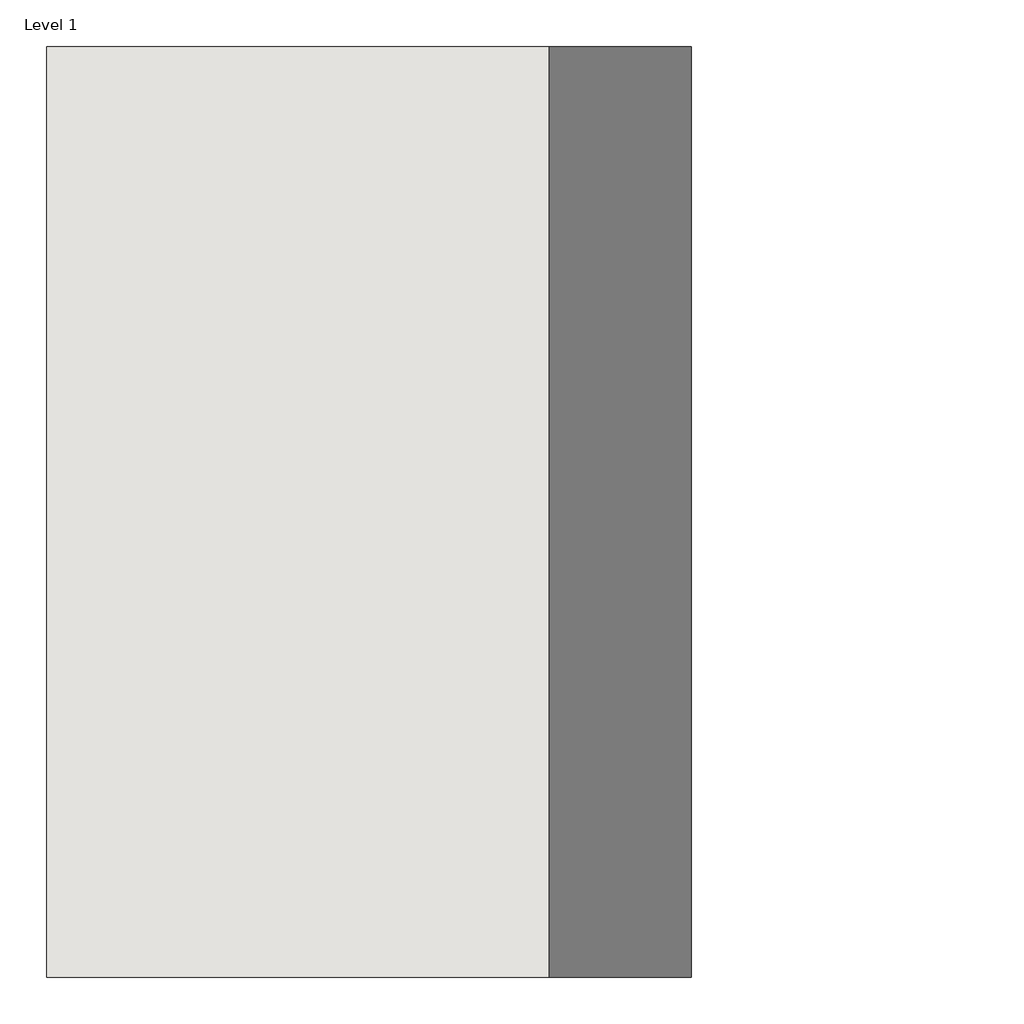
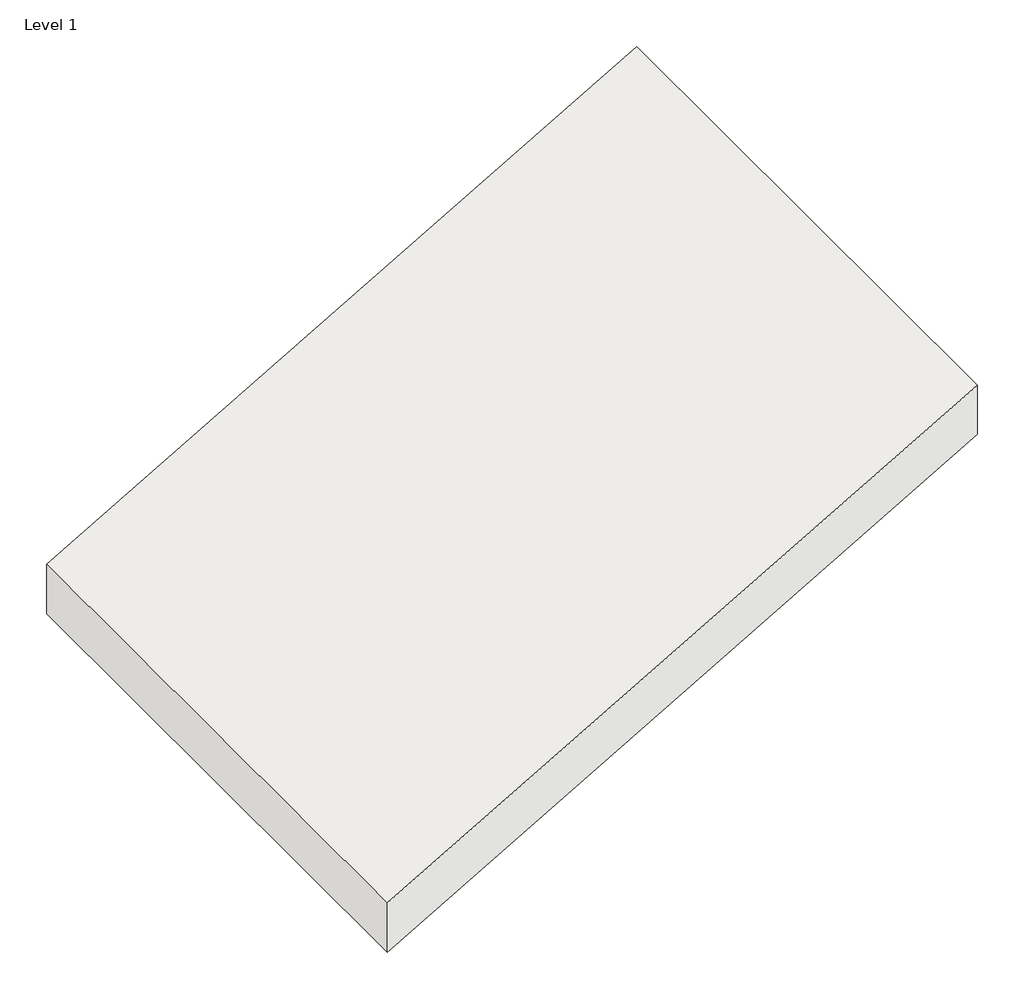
# One storey: 1 roof.
"""IFC4 building model written with IfcOpenShell, lengths in millimetres."""

import ifcopenshell
import ifcopenshell.guid

model = None  # the IFC model being written
_history = None  # IfcOwnerHistory: only IFC2X3 demands one
_inside = {}  # id of a spatial element -> (the spatial element, [elements in it])
_under = {}  # id of a project, library or spatial element -> (it, [spatial elements below it])
_declared = {}  # id of a project -> (the project, [libraries it declares])
_typed = {}  # id of a type object -> (the type object, [elements of that type])
_made_of = {}  # id of a material, layer set ... -> (it, [elements and type objects made of it])


def new_model(schema):
    """Start an empty IFC model of exactly this schema.

    Asked for "IFC4X3", IfcOpenShell would pick the latest addendum, in which some entities
    have other attributes; the version numbers below select the first issue.
    IFC2X3 requires an IfcOwnerHistory on every rooted entity: one is made here for all.
    """
    global model, _history
    if schema == "IFC4X3":
        model = ifcopenshell.file(schema_version=(4, 3, 0, 0))
    else:
        model = ifcopenshell.file(schema=schema)
    _inside.clear()
    _under.clear()
    _declared.clear()
    _typed.clear()
    _made_of.clear()
    _history = None
    if model.schema == "IFC2X3":
        org = make("IfcOrganization", Name="unknown")
        user = make(
            "IfcPersonAndOrganization",
            ThePerson=make("IfcPerson", FamilyName="unknown"),
            TheOrganization=org,
        )
        app = make(
            "IfcApplication",
            ApplicationDeveloper=org,
            Version="unknown",
            ApplicationFullName="unknown",
            ApplicationIdentifier="unknown",
        )
        _history = make(
            "IfcOwnerHistory",
            OwningUser=user,
            OwningApplication=app,
            ChangeAction="ADDED",
            CreationDate=0,
        )
    return model


def make(cls, **values):
    """One entity of the class cls with the attributes given. An attribute that is None is left unset."""
    return model.create_entity(
        cls, **{name: value for name, value in values.items() if value is not None}
    )


def rooted(cls, **values):
    """An entity with a GlobalId (a new one), such as an element, a storey or a relation."""
    return make(cls, GlobalId=ifcopenshell.guid.new(), OwnerHistory=_history, **values)


def si_unit(unit_type, name, prefix=None):
    """IfcSIUnit, for example si_unit("LENGTHUNIT", "METRE", prefix="MILLI")."""
    return make("IfcSIUnit", UnitType=unit_type, Prefix=prefix, Name=name)


def assignment(units):
    """IfcUnitAssignment: the units of a project."""
    return None if units is None else make("IfcUnitAssignment", Units=units)


def point(xyz):
    """IfcCartesianPoint."""
    return None if xyz is None else make("IfcCartesianPoint", Coordinates=xyz)


def direction(xyz):
    """IfcDirection."""
    return None if xyz is None else make("IfcDirection", DirectionRatios=xyz)


def frame(location, z_axis=None, x_axis=None):
    """IfcAxis2Placement3D, a coordinate frame: its origin and axes. An axis left out is left unset."""
    return make(
        "IfcAxis2Placement3D",
        Location=point(location),
        Axis=direction(z_axis),
        RefDirection=direction(x_axis),
    )


def origin():
    """The frame at (0, 0, 0) with its axes left unset."""
    return frame((0.0, 0.0, 0.0))


def place(relative_to, where):
    """IfcLocalPlacement: puts the frame where relative to a parent placement (None: the world)."""
    return make(
        "IfcLocalPlacement", PlacementRelTo=relative_to, RelativePlacement=where
    )


def context(
    kind, dimensions, precision=None, world=None, true_north=None, identifier=None
):
    """IfcGeometricRepresentationContext, for example the 3D "Model" context."""
    return make(
        "IfcGeometricRepresentationContext",
        ContextIdentifier=identifier,
        ContextType=kind,
        CoordinateSpaceDimension=dimensions,
        Precision=precision,
        WorldCoordinateSystem=world,
        TrueNorth=true_north,
    )


def project(units=None, contexts=None):
    """IfcProject with its units and contexts."""
    return rooted(
        "IfcProject",
        Name="project",
        RepresentationContexts=contexts,
        UnitsInContext=assignment(units),
    )


def spatial(cls, under=None, at=None, **own):
    """A site, building, storey or space (cls), placed at a placement, below another one or the project."""
    s = rooted(cls, ObjectPlacement=at, **own)
    if under is not None:
        _under.setdefault(under.id(), (under, []))[1].append(s)
    return s


def polyline(points):
    """IfcPolyline through the points."""
    return make("IfcPolyline", Points=[point(p) for p in points])


def outline(outer, holes=None, kind="AREA"):
    """IfcArbitraryClosedProfileDef: a profile drawn as a closed curve; with holes, ...WithVoids."""
    if holes is None:
        return make("IfcArbitraryClosedProfileDef", ProfileType=kind, OuterCurve=outer)
    return make(
        "IfcArbitraryProfileDefWithVoids",
        ProfileType=kind,
        OuterCurve=outer,
        InnerCurves=holes,
    )


def extrude(swept, where, along, depth):
    """IfcExtrudedAreaSolid: the profile swept, set in the frame where, extruded along a direction by depth."""
    return make(
        "IfcExtrudedAreaSolid",
        SweptArea=swept,
        Position=where,
        ExtrudedDirection=direction(along),
        Depth=depth,
    )


def shape(context_of_items, identifier, shape_type, items):
    """IfcShapeRepresentation: the items that make up one representation, for example the "Body"."""
    return make(
        "IfcShapeRepresentation",
        ContextOfItems=context_of_items,
        RepresentationIdentifier=identifier,
        RepresentationType=shape_type,
        Items=items,
    )


def made_of(thing, what):
    """Note that an element or type object is made of a material, layer set ...; save() writes the relation."""
    if what is not None:
        _made_of.setdefault(what.id(), (what, []))[1].append(thing)
    return thing


def element(
    cls,
    number,
    at=None,
    inside=None,
    cuts=None,
    type_object=None,
    material=None,
    context=None,
    identifier="Body",
    shape_type=None,
    held_by="IfcProductDefinitionShape",
    body=None,
    shapes=None,
    **own,
):
    """One element of the class cls, such as IfcWall. Its Tag is "e" and its number.

    at: its placement. inside: the storey or other place that contains it. cuts: it is an
    opening in that element (IfcRelVoidsElement). A single representation is given by context,
    identifier, shape_type and body (its items); several are given by shapes. held_by: the class
    of the entity that holds the representations. save() writes the other relations.
    """
    e = rooted(cls, Tag="e%d" % number, ObjectPlacement=at, **own)
    if body is not None:
        shapes = [shape(context, identifier, shape_type, body)]
    if shapes is not None:
        e.Representation = make(held_by, Representations=shapes)
    if inside is not None:
        _inside.setdefault(inside.id(), (inside, []))[1].append(e)
    if cuts is not None:
        rooted(
            "IfcRelVoidsElement", RelatingBuildingElement=cuts, RelatedOpeningElement=e
        )
    if type_object is not None:
        _typed.setdefault(type_object.id(), (type_object, []))[1].append(e)
    return made_of(e, material)


def aggregate(whole, parts):
    """IfcRelAggregates: a whole, such as a stair, and the parts it consists of."""
    return rooted("IfcRelAggregates", RelatingObject=whole, RelatedObjects=parts)


def save(model, path):
    """Write the relations noted so far, then the file.

    IfcRelAggregates (storeys below a building ...), IfcRelContainedInSpatialStructure (elements
    in a storey), IfcRelDefinesByType, IfcRelAssociatesMaterial and IfcRelDeclares: one each for
    every whole, place, type object, material and project.
    """
    for whole, parts in _under.values():
        aggregate(whole, parts)
    for where, things in _inside.values():
        rooted(
            "IfcRelContainedInSpatialStructure",
            RelatedElements=things,
            RelatingStructure=where,
        )
    for kind, things in _typed.values():
        rooted("IfcRelDefinesByType", RelatedObjects=things, RelatingType=kind)
    for what, things in _made_of.values():
        rooted("IfcRelAssociatesMaterial", RelatedObjects=things, RelatingMaterial=what)
    for by, libraries in _declared.values():
        rooted("IfcRelDeclares", RelatingContext=by, RelatedDefinitions=libraries)
    model.write(path)


model = new_model("IFC4")

# Units and contexts
model_context = context("Model", 3, world=origin())
ifc_project = project(units=[si_unit("LENGTHUNIT", "METRE", prefix="MILLI")], contexts=[model_context])

# Site, building, storey
site = spatial("IfcSite", under=ifc_project)
building = spatial("IfcBuilding", under=site)
storey = spatial("IfcBuildingStorey", under=building, Name="Level 1", Elevation=0.0)

# Roof
placement = place(None, origin())
element("IfcRoof", 1, ObjectType="RIGIPS - 4.70.05 - REI 60 (60)", at=placement, inside=storey, context=model_context, shape_type="SweptSolid", body=[
    extrude(outline(polyline([(1997.6319314, 1500.0), (265.5811238, -1500.0), (0.0, -1500.0), (1732.0508076, 1500.0), (1997.6319314, 1500.0)])), frame((0.0, -1500.0, 0.0), z_axis=(0.0, 1.0, 0.0), x_axis=(0.0, 0.0, 1.0)), (0.0, 0.0, 1.0), 3000.0),
])

save(model, "model.ifc")
